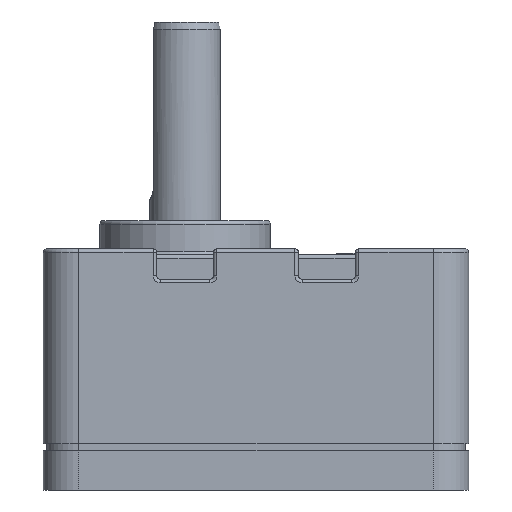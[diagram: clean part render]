
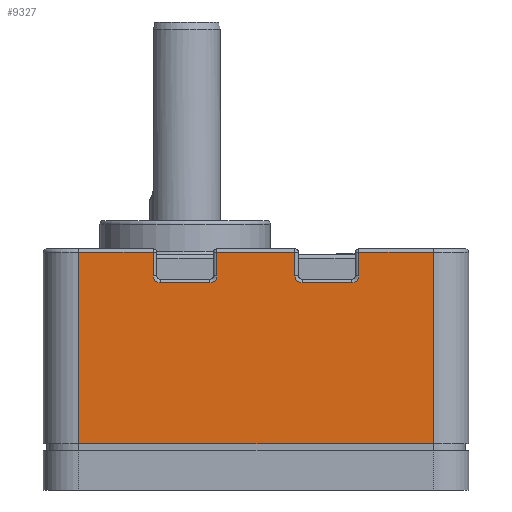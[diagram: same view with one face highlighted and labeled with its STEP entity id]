
A CAD part, left-side view. The second image highlights one B-rep face of the part: STEP entity #9327.
In plain terms, the highlighted planar face has unit normal (-1, 0, 0).
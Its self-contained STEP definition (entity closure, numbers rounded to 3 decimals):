
#8983=CARTESIAN_POINT('',(-30.,-25.,33.5));
#8984=VERTEX_POINT('',#8983);
#8993=CARTESIAN_POINT('',(-30.,-14.5,33.5));
#8994=VERTEX_POINT('',#8993);
#9002=CARTESIAN_POINT('',(-30.,-14.5,33.5));
#9003=DIRECTION('',(0.0,-1.0,0.0));
#9004=VECTOR('',#9003,10.5);
#9005=LINE('',#9002,#9004);
#9006=EDGE_CURVE('',#8994,#8984,#9005,.T.);
#9197=CARTESIAN_POINT('',(-30.,30.,34.));
#9198=DIRECTION('',(-1.0,0.0,0.0));
#9199=DIRECTION('',(0.0,0.0,-1.0));
#9200=AXIS2_PLACEMENT_3D('',#9197,#9198,#9199);
#9201=PLANE('',#9200);
#9202=ORIENTED_EDGE('',*,*,#9006,.F.);
#9203=CARTESIAN_POINT('',(-30.,-14.5,30.2));
#9204=VERTEX_POINT('',#9203);
#9205=CARTESIAN_POINT('',(-30.,-14.5,30.2));
#9206=DIRECTION('',(0.0,0.0,1.0));
#9207=VECTOR('',#9206,3.3);
#9208=LINE('',#9205,#9207);
#9209=EDGE_CURVE('',#9204,#8994,#9208,.T.);
#9210=ORIENTED_EDGE('',*,*,#9209,.F.);
#9211=CARTESIAN_POINT('',(-30.,-13.5,29.2));
#9212=VERTEX_POINT('',#9211);
#9213=CARTESIAN_POINT('',(-30.,-13.5,30.2));
#9214=DIRECTION('',(-1.0,0.,0.));
#9215=DIRECTION('',(0.,-0.707,-0.707));
#9216=AXIS2_PLACEMENT_3D('',#9213,#9214,#9215);
#9217=CIRCLE('',#9216,1.0);
#9218=EDGE_CURVE('',#9212,#9204,#9217,.T.);
#9219=ORIENTED_EDGE('',*,*,#9218,.F.);
#9220=CARTESIAN_POINT('',(-30.,-6.5,29.2));
#9221=VERTEX_POINT('',#9220);
#9222=CARTESIAN_POINT('',(-30.,-6.5,29.2));
#9223=DIRECTION('',(0.0,-1.0,0.0));
#9224=VECTOR('',#9223,7.);
#9225=LINE('',#9222,#9224);
#9226=EDGE_CURVE('',#9221,#9212,#9225,.T.);
#9227=ORIENTED_EDGE('',*,*,#9226,.F.);
#9228=CARTESIAN_POINT('',(-30.,-5.5,30.2));
#9229=VERTEX_POINT('',#9228);
#9230=CARTESIAN_POINT('',(-30.,-6.5,30.2));
#9231=DIRECTION('',(-1.,0.,0.));
#9232=DIRECTION('',(0.,0.707,-0.707));
#9233=AXIS2_PLACEMENT_3D('',#9230,#9231,#9232);
#9234=CIRCLE('',#9233,1.);
#9235=EDGE_CURVE('',#9229,#9221,#9234,.T.);
#9236=ORIENTED_EDGE('',*,*,#9235,.F.);
#9237=CARTESIAN_POINT('',(-30.,-5.5,33.5));
#9238=VERTEX_POINT('',#9237);
#9239=CARTESIAN_POINT('',(-30.,-5.5,33.5));
#9240=DIRECTION('',(0.0,0.0,-1.0));
#9241=VECTOR('',#9240,3.3);
#9242=LINE('',#9239,#9241);
#9243=EDGE_CURVE('',#9238,#9229,#9242,.T.);
#9244=ORIENTED_EDGE('',*,*,#9243,.F.);
#9245=CARTESIAN_POINT('',(-30.0,5.5,33.5));
#9246=VERTEX_POINT('',#9245);
#9247=CARTESIAN_POINT('',(-30.0,5.5,33.5));
#9248=DIRECTION('',(0.0,-1.0,0.0));
#9249=VECTOR('',#9248,11.);
#9250=LINE('',#9247,#9249);
#9251=EDGE_CURVE('',#9246,#9238,#9250,.T.);
#9252=ORIENTED_EDGE('',*,*,#9251,.F.);
#9253=CARTESIAN_POINT('',(-30.,5.5,30.2));
#9254=VERTEX_POINT('',#9253);
#9255=CARTESIAN_POINT('',(-30.,5.5,30.2));
#9256=DIRECTION('',(0.0,0.0,1.0));
#9257=VECTOR('',#9256,3.3);
#9258=LINE('',#9255,#9257);
#9259=EDGE_CURVE('',#9254,#9246,#9258,.T.);
#9260=ORIENTED_EDGE('',*,*,#9259,.F.);
#9261=CARTESIAN_POINT('',(-30.,6.5,29.2));
#9262=VERTEX_POINT('',#9261);
#9263=CARTESIAN_POINT('',(-30.,6.5,30.2));
#9264=DIRECTION('',(-1.,0.,0.));
#9265=DIRECTION('',(0.,-0.707,-0.707));
#9266=AXIS2_PLACEMENT_3D('',#9263,#9264,#9265);
#9267=CIRCLE('',#9266,1.);
#9268=EDGE_CURVE('',#9262,#9254,#9267,.T.);
#9269=ORIENTED_EDGE('',*,*,#9268,.F.);
#9270=CARTESIAN_POINT('',(-30.,13.5,29.2));
#9271=VERTEX_POINT('',#9270);
#9272=CARTESIAN_POINT('',(-30.,13.5,29.2));
#9273=DIRECTION('',(0.0,-1.0,0.0));
#9274=VECTOR('',#9273,7.);
#9275=LINE('',#9272,#9274);
#9276=EDGE_CURVE('',#9271,#9262,#9275,.T.);
#9277=ORIENTED_EDGE('',*,*,#9276,.F.);
#9278=CARTESIAN_POINT('',(-30.,14.5,30.2));
#9279=VERTEX_POINT('',#9278);
#9280=CARTESIAN_POINT('',(-30.,13.5,30.2));
#9281=DIRECTION('',(-1.0,0.,0.));
#9282=DIRECTION('',(0.,0.707,-0.707));
#9283=AXIS2_PLACEMENT_3D('',#9280,#9281,#9282);
#9284=CIRCLE('',#9283,1.0);
#9285=EDGE_CURVE('',#9279,#9271,#9284,.T.);
#9286=ORIENTED_EDGE('',*,*,#9285,.F.);
#9287=CARTESIAN_POINT('',(-30.,14.5,33.5));
#9288=VERTEX_POINT('',#9287);
#9289=CARTESIAN_POINT('',(-30.,14.5,33.5));
#9290=DIRECTION('',(0.0,0.0,-1.0));
#9291=VECTOR('',#9290,3.3);
#9292=LINE('',#9289,#9291);
#9293=EDGE_CURVE('',#9288,#9279,#9292,.T.);
#9294=ORIENTED_EDGE('',*,*,#9293,.F.);
#9295=CARTESIAN_POINT('',(-30.,25.,33.5));
#9296=VERTEX_POINT('',#9295);
#9297=CARTESIAN_POINT('',(-30.,25.,33.5));
#9298=DIRECTION('',(0.0,-1.0,0.0));
#9299=VECTOR('',#9298,10.5);
#9300=LINE('',#9297,#9299);
#9301=EDGE_CURVE('',#9296,#9288,#9300,.T.);
#9302=ORIENTED_EDGE('',*,*,#9301,.F.);
#9303=CARTESIAN_POINT('',(-30.,25.,6.5));
#9304=VERTEX_POINT('',#9303);
#9305=CARTESIAN_POINT('',(-30.,25.,6.5));
#9306=DIRECTION('',(0.0,0.0,1.0));
#9307=VECTOR('',#9306,27.);
#9308=LINE('',#9305,#9307);
#9309=EDGE_CURVE('',#9304,#9296,#9308,.T.);
#9310=ORIENTED_EDGE('',*,*,#9309,.F.);
#9311=CARTESIAN_POINT('',(-30.,-25.,6.5));
#9312=VERTEX_POINT('',#9311);
#9313=CARTESIAN_POINT('',(-30.,25.,6.5));
#9314=DIRECTION('',(0.0,-1.0,0.0));
#9315=VECTOR('',#9314,50.);
#9316=LINE('',#9313,#9315);
#9317=EDGE_CURVE('',#9304,#9312,#9316,.T.);
#9318=ORIENTED_EDGE('',*,*,#9317,.T.);
#9319=CARTESIAN_POINT('',(-30.,-25.,33.5));
#9320=DIRECTION('',(0.0,0.0,-1.0));
#9321=VECTOR('',#9320,27.);
#9322=LINE('',#9319,#9321);
#9323=EDGE_CURVE('',#8984,#9312,#9322,.T.);
#9324=ORIENTED_EDGE('',*,*,#9323,.F.);
#9325=EDGE_LOOP('',(#9202,#9210,#9219,#9227,#9236,#9244,#9252,#9260,#9269,#9277,#9286,#9294,#9302,#9310,#9318,#9324));
#9326=FACE_OUTER_BOUND('',#9325,.T.);
#9327=ADVANCED_FACE('',(#9326),#9201,.T.);
